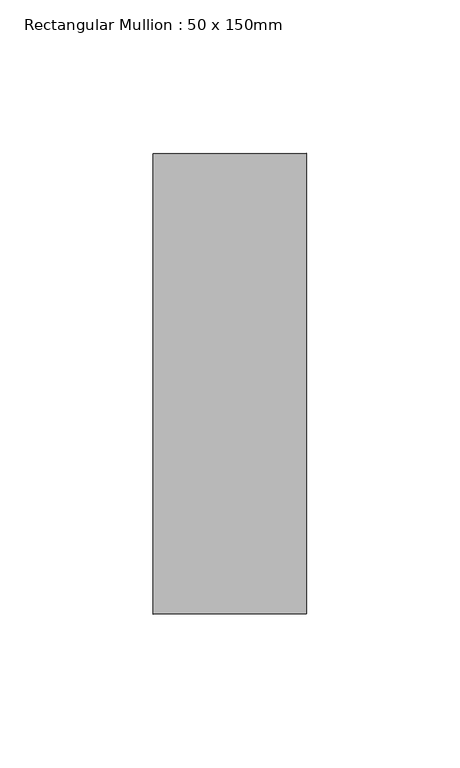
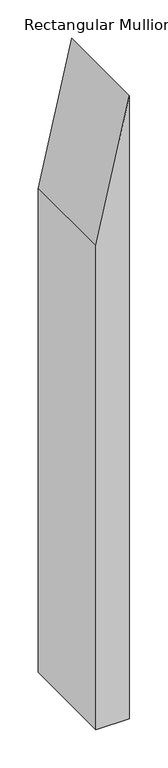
"""IFC4 building model written with IfcOpenShell, lengths in millimetres: member geometry, Rectangular Mullion : 50 x 150mm."""

from ifc_helpers import new_model, si_unit, frame, origin, place, context, project, spatial, polyline, outline, extrude, source, transform, mapped, element, save


def rectangular_mullion_50_x_150mm_2969e06d(model_context):
    return source(origin(), model_context, "Body", "SweptSolid", [
        extrude(outline(polyline([(-116.3208215, 25.0), (-337.815764, -25.0), (-1106.7591034, -25.0), (-1106.7591034, 25.0), (-116.3208215, 25.0)])), frame((0.0, -75.0, 0.0), z_axis=(0.0, 1.0, 0.0), x_axis=(0.0, 0.0, 1.0)), (0.0, 0.0, 1.0), 150.0),
    ])


if __name__ == "__main__":
    model = new_model("IFC4")
    model_context = context("Model", 3, world=origin())
    ifc_project = project(units=[si_unit("LENGTHUNIT", "METRE", prefix="MILLI")], contexts=[model_context])
    site = spatial("IfcSite", under=ifc_project)
    building = spatial("IfcBuilding", under=site)
    placement = place(None, origin())
    rectangular_mullion_50_x_150mm_shape = rectangular_mullion_50_x_150mm_2969e06d(model_context)
    element("IfcMember", 1, ObjectType="Rectangular Mullion : 50 x 150mm", at=placement, inside=building, context=model_context, shape_type="MappedRepresentation", body=[
        mapped(rectangular_mullion_50_x_150mm_shape, transform((0.0, 0.0, 0.0), x_axis=(1.0, 0.0, 0.0), y_axis=(0.0, 1.0, 0.0), z_axis=(0.0, 0.0, 1.0))),
    ])
    save(model, "model.ifc")
